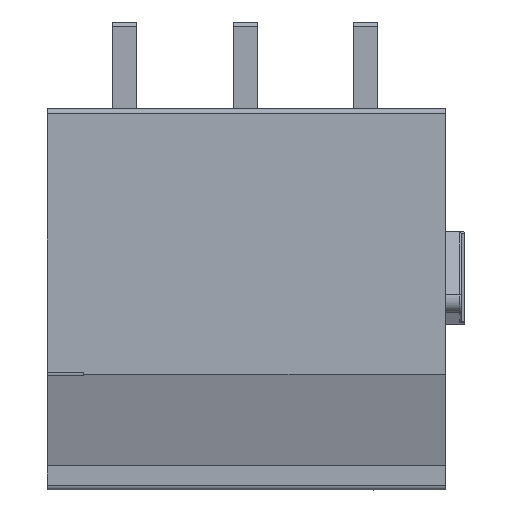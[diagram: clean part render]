
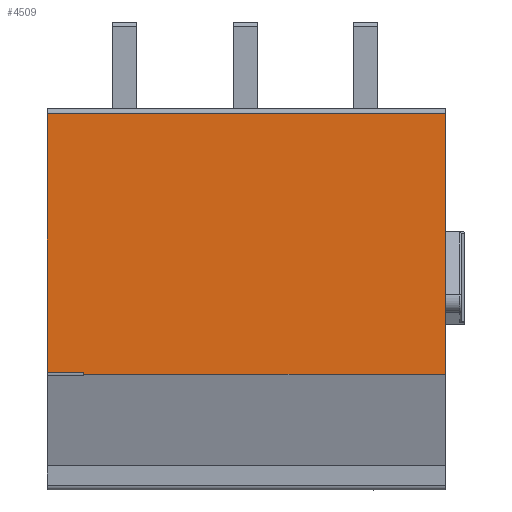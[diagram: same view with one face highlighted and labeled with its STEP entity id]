
A CAD part, left-side view. The second image highlights one B-rep face of the part: STEP entity #4509.
In plain terms, the highlighted planar face has unit normal (-1, 0, 0).
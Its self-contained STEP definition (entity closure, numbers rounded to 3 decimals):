
#289=DIRECTION('',(0.,1.,0.));
#290=VECTOR('',#289,16.5);
#291=CARTESIAN_POINT('',(-1.2,-10.,15.6));
#292=LINE('',#291,#290);
#297=DIRECTION('',(0.,0.,-1.));
#298=VECTOR('',#297,10.8);
#299=CARTESIAN_POINT('',(-1.2,-10.,15.6));
#300=LINE('',#299,#298);
#306=DIRECTION('',(0.,0.,-1.));
#307=VECTOR('',#306,0.077);
#308=CARTESIAN_POINT('',(-1.2,5.,4.877));
#309=LINE('',#308,#307);
#318=DIRECTION('',(0.,-1.,0.));
#319=VECTOR('',#318,1.5);
#320=CARTESIAN_POINT('',(-1.2,6.5,4.877));
#321=LINE('',#320,#319);
#322=DIRECTION('',(0.,-1.,0.));
#323=VECTOR('',#322,15.);
#324=CARTESIAN_POINT('',(-1.2,5.,4.8));
#325=LINE('',#324,#323);
#595=DIRECTION('',(0.,0.,-1.));
#596=VECTOR('',#595,10.723);
#597=CARTESIAN_POINT('',(-1.2,6.5,15.6));
#598=LINE('',#597,#596);
#3207=CARTESIAN_POINT('',(-1.2,-10.,15.6));
#3208=CARTESIAN_POINT('',(-1.2,6.5,15.6));
#3209=VERTEX_POINT('',#3207);
#3210=VERTEX_POINT('',#3208);
#3211=CARTESIAN_POINT('',(-1.2,5.,4.877));
#3212=CARTESIAN_POINT('',(-1.2,5.,4.8));
#3213=VERTEX_POINT('',#3211);
#3214=VERTEX_POINT('',#3212);
#3215=CARTESIAN_POINT('',(-1.2,6.5,4.877));
#3216=VERTEX_POINT('',#3215);
#3217=CARTESIAN_POINT('',(-1.2,-10.,4.8));
#3218=VERTEX_POINT('',#3217);
#4491=CARTESIAN_POINT('',(-1.2,0.,4.8));
#4492=DIRECTION('',(-1.,0.,0.));
#4493=DIRECTION('',(0.,0.,1.));
#4494=AXIS2_PLACEMENT_3D('',#4491,#4492,#4493);
#4495=PLANE('',#4494);
#4497=ORIENTED_EDGE('',*,*,#4496,.F.);
#4499=ORIENTED_EDGE('',*,*,#4498,.F.);
#4501=ORIENTED_EDGE('',*,*,#4500,.F.);
#4502=ORIENTED_EDGE('',*,*,#4481,.F.);
#4504=ORIENTED_EDGE('',*,*,#4503,.T.);
#4506=ORIENTED_EDGE('',*,*,#4505,.F.);
#4507=EDGE_LOOP('',(#4497,#4499,#4501,#4502,#4504,#4506));
#4508=FACE_OUTER_BOUND('',#4507,.F.);
#4509=ADVANCED_FACE('',(#4508),#4495,.T.);
#4481=EDGE_CURVE('',#3209,#3210,#292,.T.);
#4496=EDGE_CURVE('',#3213,#3214,#309,.T.);
#4498=EDGE_CURVE('',#3216,#3213,#321,.T.);
#4500=EDGE_CURVE('',#3210,#3216,#598,.T.);
#4503=EDGE_CURVE('',#3209,#3218,#300,.T.);
#4505=EDGE_CURVE('',#3214,#3218,#325,.T.);
